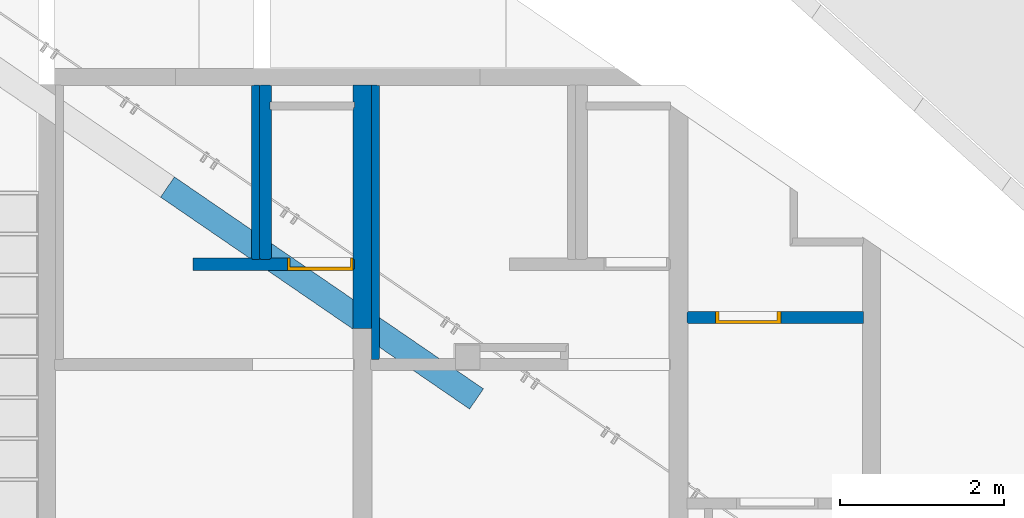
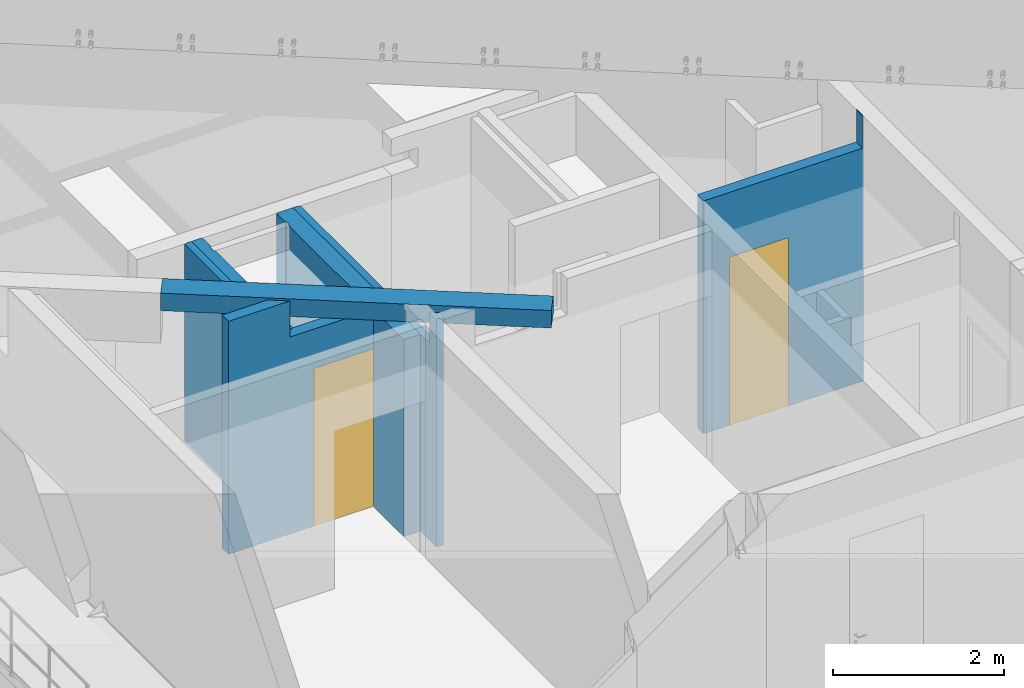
# One storey, part 136 of 246: 7 walls, 2 doors, 2 openings.
"""IFC2X3 building model written with IfcOpenShell, lengths in millimetres."""

from ifc_helpers import new_model, entity, si_unit, converted_unit, derived_unit, money_unit, direction, frame, origin_with_axes, place, context, subcontext, project, spatial, faceted_brep, material, material_list, type_object, element, fill, save


model = new_model("IFC2X3")

# Units and contexts
model_context = context("Model", 3, precision=0.01, world=origin_with_axes(), true_north=direction((0.0, 1.0)))
body_context = subcontext(model_context, "Body", "Model", "MODEL_VIEW")
ifc_project = project(units=[si_unit("LENGTHUNIT", "METRE", prefix="MILLI"), si_unit("AREAUNIT", "SQUARE_METRE"), si_unit("VOLUMEUNIT", "CUBIC_METRE"), converted_unit("PLANEANGLEUNIT", "DEGREE", entity("IfcPlaneAngleMeasure", 0.0174532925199), si_unit("PLANEANGLEUNIT", "RADIAN"), dimensions=[0, 0, 0, 0, 0, 0, 0]), si_unit("SOLIDANGLEUNIT", "STERADIAN"), money_unit("EUR"), converted_unit("TIMEUNIT", "Year", entity("IfcTimeMeasure", 31556926.0), si_unit("TIMEUNIT", "SECOND"), dimensions=[0, 0, 1, 0, 0, 0, 0]), si_unit("MASSUNIT", "GRAM", prefix="KILO"), si_unit("THERMODYNAMICTEMPERATUREUNIT", "DEGREE_CELSIUS"), si_unit("LUMINOUSINTENSITYUNIT", "LUMEN"), si_unit("ENERGYUNIT", "JOULE", prefix="MEGA"), derived_unit("THERMALCONDUCTANCEUNIT", [(si_unit("POWERUNIT", "WATT"), 1), (si_unit("LENGTHUNIT", "METRE"), -1), (si_unit("THERMODYNAMICTEMPERATUREUNIT", "KELVIN"), -1)]), derived_unit("SPECIFICHEATCAPACITYUNIT", [(si_unit("ENERGYUNIT", "JOULE"), 1), (si_unit("MASSUNIT", "GRAM", prefix="KILO"), -1), (si_unit("THERMODYNAMICTEMPERATUREUNIT", "KELVIN"), -1)]), derived_unit("MASSDENSITYUNIT", [(si_unit("MASSUNIT", "GRAM", prefix="KILO"), 1), (si_unit("VOLUMEUNIT", "CUBIC_METRE"), -1)])], contexts=[model_context])

# Site, building, storey
site_placement = place(None, origin_with_axes())
site = spatial("IfcSite", under=ifc_project, at=site_placement, Name="L.Koidula tn 11b", CompositionType="ELEMENT")
building_placement = place(site_placement, origin_with_axes())
building = spatial("IfcBuilding", under=site, at=building_placement, Name="Rakvere Riigigümnaasium", CompositionType="ELEMENT")
storey_placement = place(building_placement, origin_with_axes())
storey = spatial("IfcBuildingStorey", under=building, at=storey_placement, Name="1.korrus 0,00", CompositionType="ELEMENT", Elevation=0.0)

# Walls
ifc_material_1 = material(Name="Polükarbamiid")
ifc_material_2 = material(Name="siseviimistlus-seinad")
ifc_material_3 = material(Name="Betoon element / plaat")
ifc_material_list_1 = material_list([ifc_material_1, ifc_material_2, ifc_material_3, ifc_material_2, ifc_material_1])
wall_type_1 = type_object("IfcWallType", Name="SS-01-4 230", PredefinedType="NOTDEFINED")
wall_1_placement = place(storey_placement, frame((69964.9873298, 25698.9371768, 0.0), z_axis=(0.0, 0.0, 1.0), x_axis=(0.0, -1.0, 0.0)))
element("IfcWall", 1, at=wall_1_placement, inside=storey, type_object=wall_type_1, material=ifc_material_list_1, Name="Sisesein", context=body_context, shape_type="Brep", body=[
    faceted_brep([(0.0, 10.0, 0.0), (0.0, 10.0, 2810.0), (0.0, 15.0, 2810.0), (0.0, 15.0, 0.0), (2980.75642681, 10.0, 0.0), (2980.75642681, 10.0, 2810.0), (2980.75642681, 15.0, 2810.0), (2980.75642681, 15.0, 0.0)], [[[0, 1, 2, 3]], [[4, 5, 1, 0]], [[5, 6, 2, 1]], [[3, 2, 6, 7]], [[0, 3, 7, 4]], [[7, 6, 5, 4]]]),
    faceted_brep([(0.0, 0.0, 0.0), (0.0, 0.0, 2810.0), (0.0, 10.0, 2810.0), (0.0, 10.0, 0.0), (2980.75642681, 0.0, 0.0), (2980.75642681, 0.0, 2810.0), (2980.75642681, 10.0, 2810.0), (2980.75642681, 10.0, 0.0)], [[[0, 1, 2, 3]], [[4, 5, 1, 0]], [[5, 6, 2, 1]], [[3, 2, 6, 7]], [[0, 3, 7, 4]], [[7, 6, 5, 4]]]),
    faceted_brep([(0.0, -200.0, 0.0), (0.0, -200.0, 2810.0), (0.0, 0.0, 2810.0), (0.0, 0.0, 0.0), (2980.75642681, -200.0, 0.0), (2980.75642681, -200.0, 2810.0), (2980.75642681, 0.0, 2810.0), (2980.75642681, 0.0, 0.0)], [[[0, 1, 2, 3]], [[4, 5, 1, 0]], [[5, 6, 2, 1]], [[3, 2, 6, 7]], [[0, 3, 7, 4]], [[7, 6, 5, 4]]]),
    faceted_brep([(2252.49503746, -210.0, 0.0), (2252.49503746, -210.0, 2810.0), (2252.49503746, -200.0, 2810.0), (2252.49503746, -200.0, 0.0), (2980.75642681, -210.0, 0.0), (2980.75642681, -210.0, 2810.0), (2980.75642681, -200.0, 2810.0), (2980.75642681, -200.0, 0.0)], [[[0, 1, 2, 3]], [[4, 5, 1, 0]], [[5, 6, 2, 1]], [[3, 2, 6, 7]], [[0, 3, 7, 4]], [[7, 6, 5, 4]]]),
    faceted_brep([(0.0, -210.0, 0.0), (0.0, -210.0, 2810.0), (0.0, -200.0, 2810.0), (0.0, -200.0, 0.0), (211.021285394, -210.0, 0.0), (211.021285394, -210.0, 2810.0), (211.021285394, -200.0, 2810.0), (211.021285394, -200.0, 0.0)], [[[0, 1, 2, 3]], [[4, 5, 1, 0]], [[5, 6, 2, 1]], [[3, 2, 6, 7]], [[3, 7, 4, 0]], [[7, 6, 5, 4]]]),
    faceted_brep([(277.021285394, -210.0, 0.0), (277.021285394, -210.0, 2810.0), (277.021285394, -200.0, 2810.0), (277.021285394, -200.0, 0.0), (2132.49503746, -210.0, 0.0), (2132.49503746, -210.0, 2810.0), (2132.49503746, -200.0, 2810.0), (2132.49503746, -200.0, 0.0)], [[[0, 1, 2, 3]], [[4, 5, 1, 0]], [[5, 6, 2, 1]], [[3, 2, 6, 7]], [[3, 7, 4, 0]], [[7, 6, 5, 4]]]),
    faceted_brep([(2262.49503746, -215.0, 0.0), (2262.49503746, -215.0, 2810.0), (2262.49503746, -210.0, 2810.0), (2262.49503746, -210.0, 0.0), (2980.75642681, -215.0, 0.0), (2980.75642681, -215.0, 2810.0), (2980.75642681, -210.0, 2810.0), (2980.75642681, -210.0, 0.0)], [[[0, 1, 2, 3]], [[4, 5, 1, 0]], [[5, 6, 2, 1]], [[3, 2, 6, 7]], [[0, 3, 7, 4]], [[7, 6, 5, 4]]]),
    faceted_brep([(0.0, -215.0, 0.0), (0.0, -215.0, 2810.0), (0.0, -210.0, 2810.0), (0.0, -210.0, 0.0), (211.021285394, -215.0, 0.0), (211.021285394, -215.0, 2810.0), (211.021285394, -210.0, 2810.0), (211.021285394, -210.0, 0.0)], [[[0, 1, 2, 3]], [[4, 5, 1, 0]], [[5, 6, 2, 1]], [[3, 2, 6, 7]], [[3, 7, 4, 0]], [[7, 6, 5, 4]]]),
    faceted_brep([(302.521285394, -215.0, 0.0), (302.521285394, -215.0, 2810.0), (302.521285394, -210.0, 2810.0), (302.521285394, -210.0, 0.0), (2122.49503746, -215.0, 0.0), (2122.49503746, -215.0, 2810.0), (2122.49503746, -210.0, 2810.0), (2122.49503746, -210.0, 0.0)], [[[0, 1, 2, 3]], [[4, 5, 1, 0]], [[5, 6, 2, 1]], [[3, 2, 6, 7]], [[3, 7, 4, 0]], [[7, 6, 5, 4]]]),
])
ifc_material_4 = material(Name="Kipsplaat-erikõva")
ifc_material_5 = material(Name="Karkass")
ifc_material_list_2 = material_list([ifc_material_1, ifc_material_4, ifc_material_4, ifc_material_5])
wall_type_2 = type_object("IfcWallType", Name="SS-09-1 97", PredefinedType="NOTDEFINED")
wall_2_placement = place(storey_placement, frame((68508.4873365, 23431.4421393, 0.0), z_axis=(0.0, 0.0, 1.0), x_axis=(0.0, 1.0, 0.0)))
element("IfcWall", 2, at=wall_2_placement, inside=storey, type_object=wall_type_2, material=ifc_material_list_2, Name="Sisesein", context=body_context, shape_type="Brep", body=[
    faceted_brep([(2257.99509264, 0.0, 2810.0), (2257.99509264, -5.0, 2810.0), (2257.99509264, -5.0, 0.0), (2257.99509264, 0.0, 0.0), (150.0, -5.0, 2810.0), (150.0, 0.0, 2810.0), (150.0, -5.0, 0.0), (150.0, 0.0, 0.0)], [[[0, 1, 2, 3]], [[4, 1, 0, 5]], [[1, 4, 6, 2]], [[7, 3, 2, 6]], [[5, 0, 3, 7]], [[4, 5, 7, 6]]]),
    faceted_brep([(2257.99509264, -5.0, 2810.0), (2257.99509264, -18.0, 2810.0), (2257.99509264, -18.0, 0.0), (2257.99509264, -5.0, 0.0), (135.0, -18.0, 2810.0), (135.0, -5.0, 2810.0), (135.0, -18.0, 0.0), (135.0, -5.0, 0.0)], [[[0, 1, 2, 3]], [[4, 1, 0, 5]], [[1, 4, 6, 2]], [[7, 3, 2, 6]], [[5, 0, 3, 7]], [[4, 5, 7, 6]]]),
    faceted_brep([(2257.99509264, -18.0, 2810.0), (2257.99509264, -30.5, 2810.0), (2257.99509264, -30.5, 0.0), (2257.99509264, -18.0, 0.0), (135.0, -30.5, 2810.0), (135.0, -18.0, 2810.0), (135.0, -30.5, 0.0), (135.0, -18.0, 0.0)], [[[0, 1, 2, 3]], [[4, 1, 0, 5]], [[1, 4, 6, 2]], [[7, 3, 2, 6]], [[5, 0, 3, 7]], [[4, 5, 7, 6]]]),
    faceted_brep([(2267.99509264, -30.5, 2810.0), (2267.99509264, -96.5, 2810.0), (2267.99509264, -96.5, 0.0), (2267.99509264, -30.5, 0.0), (135.0, -96.5, 2810.0), (135.0, -30.5, 2810.0), (135.0, -96.5, 0.0), (135.0, -30.5, 0.0)], [[[0, 1, 2, 3]], [[4, 1, 0, 5]], [[1, 4, 6, 2]], [[7, 3, 2, 6]], [[5, 0, 3, 7]], [[4, 5, 7, 6]]]),
])
ifc_material_list_3 = material_list([ifc_material_5, ifc_material_4, ifc_material_4, ifc_material_1])
wall_3_placement = place(storey_placement, frame((70071.4873298, 22220.4533367, 0.0), z_axis=(0.0, 0.0, 1.0), x_axis=(0.0, 1.0, 0.0)))
element("IfcWall", 3, at=wall_3_placement, inside=storey, type_object=wall_type_2, material=ifc_material_list_3, Name="Sisesein", context=body_context, shape_type="Brep", body=[
    faceted_brep([(3478.98389521, 96.5000018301, 2810.0), (3478.98389521, 30.5000013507, 2810.0), (3478.98389521, 30.5, 0.0), (3478.98389521, 96.5, 0.0), (241.711332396, 30.5, 2810.0), (286.976554, 96.5000018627, 2810.0), (241.711332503, 30.5000001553, 3255.0), (120.0, 30.5000001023, 3255.0), (120.0, 30.5, 0.0), (120.0, 96.5, 0.0), (120.0, 96.5000001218, 3255.0), (286.976552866, 96.5000002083, 3255.0)], [[[0, 1, 2, 3]], [[4, 1, 0, 5]], [[4, 6, 7, 8, 2, 1]], [[9, 3, 2, 8]], [[5, 0, 3, 9, 10, 11]], [[4, 5, 11, 6]], [[6, 11, 10, 7]], [[9, 8, 7, 10]]]),
    faceted_brep([(3468.98389521, 30.5000015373, 2810.0), (3468.98389521, 18.0, 2810.0), (3468.98389521, 18.0, 0.0), (3468.98389521, 30.5, 0.0), (233.138374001, 18.0, 2810.0), (241.711333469, 30.5000015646, 2810.0), (233.138374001, 18.0, 3255.0), (120.0, 18.0, 3255.0), (120.0, 18.0, 0.0), (120.0, 30.5, 0.0), (120.0, 30.5000001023, 3255.0), (241.711332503, 30.5000001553, 3255.0)], [[[0, 1, 2, 3]], [[4, 1, 0, 5]], [[4, 6, 7, 8, 2, 1]], [[9, 3, 2, 8]], [[5, 0, 3, 9, 10, 11]], [[4, 5, 11, 6]], [[6, 11, 10, 7]], [[9, 8, 7, 10]]]),
    faceted_brep([(3468.98389521, 18.0, 2810.0), (3468.98389521, 4.99999721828, 2810.0), (3468.98389521, 5.0, 0.0), (3468.98389521, 18.0, 0.0), (224.22249727, 5.0, 2810.0), (233.138374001, 18.0, 2810.0), (224.222497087, 4.99999973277, 3255.0), (120.0, 4.99999981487, 3255.0), (120.0, 5.0, 0.0), (120.0, 18.0, 0.0), (120.0, 18.0, 3255.0), (233.138374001, 18.0, 3255.0)], [[[0, 1, 2, 3]], [[4, 1, 0, 5]], [[4, 6, 7, 8, 2, 1]], [[9, 3, 2, 8]], [[5, 0, 3, 9, 10, 11]], [[4, 5, 11, 6]], [[6, 11, 10, 7]], [[9, 8, 7, 10]]]),
    faceted_brep([(3468.98389521, 4.99999721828, 2810.0), (3468.98389521, 0.0, 2810.0), (3468.98389521, 0.0, 0.0), (3468.98389521, 5.0, 0.0), (220.793313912, 0.0, 2810.0), (224.222495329, 4.99999716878, 2810.0), (220.793313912, 0.0, 3255.0), (135.0, 0.0, 3255.0), (135.0, 0.0, 0.0), (135.0, 5.0, 0.0), (135.0, 4.99999980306, 3255.0), (224.222497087, 4.99999973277, 3255.0)], [[[0, 1, 2, 3]], [[4, 1, 0, 5]], [[4, 6, 7, 8, 2, 1]], [[9, 3, 2, 8]], [[5, 0, 3, 9, 10, 11]], [[4, 5, 11, 6]], [[6, 11, 10, 7]], [[9, 8, 7, 10]]]),
])

# Wall, opening, door
ifc_material_6 = material(Name="Krohv")
ifc_material_7 = material(Name="Silikaat plokk")
ifc_material_list_4 = material_list([ifc_material_1, ifc_material_6, ifc_material_7, ifc_material_6, ifc_material_1])
wall_type_3 = type_object("IfcWallType", Name="SS-05-2 150", PredefinedType="NOTDEFINED")
wall_4_placement = place(storey_placement, frame((69964.9873299, 23431.4421393, 0.0), z_axis=(0.0, 0.0, 1.0), x_axis=(-1.0, 0.0, 0.0)))
wall_4 = element("IfcWall", 4, at=wall_4_placement, inside=storey, type_object=wall_type_3, material=ifc_material_list_4, Name="Sisesein", context=body_context, shape_type="Brep", body=[
    faceted_brep([(1337.27740743, -2.8985205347e-06, 3255.0), (1337.27740482, -1.11228715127e-06, 3325.0), (2170.0, 0.0, 3325.0), (2170.0, 0.0, 0.0), (1015.00000034, 0.0, 0.0), (1015.00000034, -2.8985205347e-06, 2250.0), (215.0, -2.28030572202e-06, 2250.0), (215.000000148, -2.8478481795e-06, 2810.0), (1337.27740743, -2.8985205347e-06, 2810.0), (1344.56776869, -5.0, 3325.0), (1344.56776869, -5.0, 3255.0), (2170.0, -5.0, 3325.0), (2170.0, -5.0, 0.0), (1015.00000034, -5.0, 0.0), (1015.00000034, -5.0, 2250.0), (215.0, -5.0, 2250.0), (215.000000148, -5.0, 2810.0), (1344.56776869, -5.0, 2810.0)], [[[0, 1, 2, 3, 4, 5, 6, 7, 8]], [[9, 1, 0, 10]], [[1, 9, 11, 2]], [[12, 3, 2, 11]], [[12, 13, 4, 3]], [[4, 13, 14, 5]], [[5, 14, 15, 6]], [[7, 6, 15, 16]], [[7, 16, 17, 8]], [[10, 0, 8, 17]], [[9, 10, 17, 16, 15, 14, 13, 12, 11]]]),
    faceted_brep([(1344.56776869, -5.0, 3255.0), (1344.56776869, -5.0, 3325.0), (2170.0, -5.0, 3325.0), (2170.0, -5.0, 0.0), (1015.00000034, -5.0, 0.0), (1015.00000034, -5.0, 2250.0), (215.0, -5.0, 2250.0), (215.0, -5.0, 0.0), (210.000000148, -5.0, 0.0), (210.000000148, -5.0, 2810.0), (1344.56776869, -5.0, 2810.0), (1359.14849806, -14.9999989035, 3325.0), (1359.14849538, -14.9999970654, 3255.0), (2170.0, -15.0, 3325.0), (2170.0, -15.0, 0.0), (1015.00000034, -15.0, 0.0), (1015.00000034, -14.9999970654, 2250.0), (215.0, -14.9999970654, 2250.0), (215.0, -15.0, 0.0), (210.000000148, -15.0, 0.0), (210.000000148, -14.9999971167, 2810.0), (1359.14849538, -14.9999970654, 2810.0)], [[[0, 1, 2, 3, 4, 5, 6, 7, 8, 9, 10]], [[11, 1, 0, 12]], [[1, 11, 13, 2]], [[14, 3, 2, 13]], [[14, 15, 4, 3]], [[4, 15, 16, 5]], [[5, 16, 17, 6]], [[6, 17, 18, 7]], [[8, 7, 18, 19]], [[20, 9, 8, 19]], [[9, 20, 21, 10]], [[12, 0, 10, 21]], [[11, 12, 21, 20, 19, 18, 17, 16, 15, 14, 13]]]),
    faceted_brep([(1359.14849538, -14.9999970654, 3255.0), (1359.14849806, -14.9999989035, 3325.0), (2170.0, -15.0, 3325.0), (2170.0, -15.0, 0.0), (1015.00000034, -15.0, 0.0), (1015.00000034, -14.9999970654, 2250.0), (215.0, -14.9999970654, 2250.0), (215.0, -15.0, 0.0), (200.000000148, -15.0, 0.0), (200.000000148, -14.9999971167, 2810.0), (1359.14849538, -14.9999970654, 2810.0), (1534.11727086, -134.999999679, 3325.0), (1534.11726973, -134.999998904, 3255.0), (2170.0, -135.0, 3325.0), (2170.0, -135.0, 0.0), (1015.00000034, -135.0, 0.0), (1015.00000034, -134.999998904, 2250.0), (215.0, -134.999998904, 2250.0), (215.0, -135.0, 0.0), (200.000000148, -135.0, 0.0), (200.000000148, -134.999998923, 2810.0), (1534.11726973, -134.999998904, 2810.0)], [[[0, 1, 2, 3, 4, 5, 6, 7, 8, 9, 10]], [[11, 1, 0, 12]], [[1, 11, 13, 2]], [[14, 3, 2, 13]], [[14, 15, 4, 3]], [[4, 15, 16, 5]], [[5, 16, 17, 6]], [[6, 17, 18, 7]], [[8, 7, 18, 19]], [[20, 9, 8, 19]], [[9, 20, 21, 10]], [[12, 0, 10, 21]], [[11, 12, 21, 20, 19, 18, 17, 16, 15, 14, 13]]]),
    faceted_brep([(1534.11727133, -135.0, 3255.0), (1534.11727086, -134.999999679, 3325.0), (2170.0, -135.0, 3325.0), (2170.0, -135.0, 0.0), (1451.49999341, -135.0, 0.0), (1451.49999341, -134.999999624, 2810.0), (1534.11727133, -135.0, 2810.0), (1548.69800231, -145.0, 3325.0), (1548.69800231, -145.0, 3255.0), (2170.0, -145.0, 3325.0), (2170.0, -145.0, 0.0), (1451.49999341, -145.0, 0.0), (1451.49999341, -145.0, 2810.0), (1548.69800231, -145.0, 2810.0)], [[[0, 1, 2, 3, 4, 5, 6]], [[7, 1, 0, 8]], [[1, 7, 9, 2]], [[9, 10, 3, 2]], [[3, 10, 11, 4]], [[11, 12, 5, 4]], [[6, 5, 12, 13]], [[8, 0, 6, 13]], [[7, 8, 13, 12, 11, 10, 9]]]),
    faceted_brep([(215.0, -145.0, 2250.0), (1015.00000034, -145.0, 2250.0), (1015.00000034, -145.0, 0.0), (1229.99999341, -145.0, 0.0), (1229.99999341, -145.0, 2810.0), (210.000000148, -145.0, 2810.0), (210.000000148, -145.0, 0.0), (215.0, -145.0, 0.0), (1015.00000034, -134.999998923, 2250.0), (215.0, -134.999998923, 2250.0), (1015.00000034, -135.0, 0.0), (1229.99999341, -135.0, 0.0), (1229.99999341, -134.999999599, 2810.0), (210.000000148, -134.999998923, 2810.0), (210.000000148, -135.0, 0.0), (215.0, -135.0, 0.0)], [[[0, 1, 2, 3, 4, 5, 6, 7]], [[8, 1, 0, 9]], [[10, 2, 1, 8]], [[3, 2, 10, 11]], [[12, 4, 3, 11]], [[13, 5, 4, 12]], [[5, 13, 14, 6]], [[14, 15, 7, 6]], [[9, 0, 7, 15]], [[8, 9, 15, 14, 13, 12, 11, 10]]]),
    faceted_brep([(1359.99999341, -145.0, 0.0), (1359.99999341, -145.0, 2810.0), (1349.99999341, -145.0, 2810.0), (1349.99999341, -145.0, 0.0), (1359.99999341, -135.0, 0.0), (1359.99999341, -134.999999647, 2810.0), (1349.99999341, -134.99999965, 2810.0), (1349.99999341, -135.0, 0.0)], [[[0, 1, 2, 3]], [[4, 5, 1, 0]], [[5, 6, 2, 1]], [[3, 2, 6, 7]], [[3, 7, 4, 0]], [[7, 6, 5, 4]]]),
    faceted_brep([(1548.69800231, -145.0, 3255.0), (1548.69800231, -145.0, 3325.0), (2170.0, -145.0, 3325.0), (2170.0, -145.0, 0.0), (1451.49999341, -145.0, 0.0), (1451.49999341, -145.0, 2810.0), (1548.69800231, -145.0, 2810.0), (1555.98836779, -150.0, 3325.0), (1555.98836779, -150.0, 3255.0), (2170.0, -150.0, 3325.0), (2170.0, -150.0, 0.0), (1451.49999341, -150.0, 0.0), (1451.49999341, -150.0, 2810.0), (1555.98836779, -150.0, 2810.0)], [[[0, 1, 2, 3, 4, 5, 6]], [[7, 1, 0, 8]], [[1, 7, 9, 2]], [[9, 10, 3, 2]], [[3, 10, 11, 4]], [[11, 12, 5, 4]], [[6, 5, 12, 13]], [[8, 0, 6, 13]], [[7, 8, 13, 12, 11, 10, 9]]]),
    faceted_brep([(215.000000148, -145.0, 2810.0), (215.0, -145.0, 2250.0), (215.0, -150.0, 2250.0), (215.000000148, -150.0, 2810.0), (1015.00000034, -145.0, 0.0), (1015.00000034, -145.0, 2250.0), (1219.99999341, -145.0, 2810.0), (1219.99999341, -145.0, 0.0), (1015.00000034, -150.0, 2250.0), (1015.00000034, -150.0, 0.0), (1219.99999341, -150.0, 0.0), (1219.99999341, -150.0, 2810.0)], [[[0, 1, 2, 3]], [[4, 5, 1, 0, 6, 7]], [[5, 8, 2, 1]], [[2, 8, 9, 10, 11, 3]], [[0, 3, 11, 6]], [[4, 9, 8, 5]], [[6, 11, 10, 7]], [[10, 9, 4, 7]]]),
])
opening_1_placement = place(wall_4_placement, frame((615.000000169, 0.0, 0.0), z_axis=(0.0, 0.0, 1.0), x_axis=(1.0, 0.0, 0.0)))
opening_1 = element("IfcOpeningElement", 5, at=opening_1_placement, cuts=wall_4, Name="SU-042", context=body_context, shape_type="Brep", body=[
    faceted_brep([(-400.000000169, -150.0, 0.0), (-400.000000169, -150.0, 2250.0), (-400.000000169, 300.0, 2250.0), (-400.000000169, 300.0, 0.0), (400.000000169, -150.0, 0.0), (400.000000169, -150.0, 2250.0), (400.000000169, 300.0, 2250.0), (400.000000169, 300.0, 0.0)], [[[0, 1, 2, 3]], [[0, 4, 5, 1]], [[1, 5, 6, 2]], [[3, 2, 6, 7]], [[4, 0, 3, 7]], [[5, 4, 7, 6]]]),
])
door_style_1 = type_object("IfcDoorStyle", Name="Door 23", ConstructionType="NOTDEFINED", OperationType="SINGLE_SWING_RIGHT", ParameterTakesPrecedence=False, Sizeable=False)
door_1_placement = place(opening_1_placement, frame((400.000000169, 0.0, 0.0), z_axis=(0.0, 0.0, 1.0), x_axis=(-1.0, 0.0, 0.0)))
door_1 = element("IfcDoor", 6, at=door_1_placement, inside=storey, type_object=door_style_1, Name="SU-042", ObjectType="DOOR", OverallHeight=2250.0, OverallWidth=800.0, context=body_context, shape_type="Brep", body=[
    faceted_brep([(0.0, 40.0, 0.0), (0.0, 150.0, 0.0), (30.0, 150.0, 0.0), (30.0, 40.0, 0.0), (0.0, 40.0, 2250.0), (0.0, 150.0, 2250.0), (30.0, 150.0, 2220.0), (30.0, 40.0, 2220.0)], [[[0, 1, 2, 3]], [[4, 5, 1, 0]], [[1, 5, 6, 2]], [[3, 2, 6, 7]], [[0, 3, 7, 4]], [[7, 6, 5, 4]]]),
    faceted_brep([(800.000000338, 40.0, 2250.0), (800.000000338, 150.0, 2250.0), (770.000000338, 150.0, 2220.0), (770.000000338, 40.0, 2220.0), (800.000000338, 40.0, 0.0), (800.000000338, 150.0, 0.0), (770.000000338, 150.0, 0.0), (770.000000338, 40.0, 0.0)], [[[0, 1, 2, 3]], [[4, 5, 1, 0]], [[1, 5, 6, 2]], [[3, 2, 6, 7]], [[0, 3, 7, 4]], [[7, 6, 5, 4]]]),
    faceted_brep([(30.0, 40.0, 2220.0), (30.0, 150.0, 2220.0), (770.000000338, 150.0, 2220.0), (770.000000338, 40.0, 2220.0), (0.0, 40.0, 2250.0), (0.0, 150.0, 2250.0), (800.000000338, 150.0, 2250.0), (800.000000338, 40.0, 2250.0)], [[[0, 1, 2, 3]], [[4, 5, 1, 0]], [[1, 5, 6, 2]], [[3, 2, 6, 7]], [[0, 3, 7, 4]], [[7, 6, 5, 4]]]),
    faceted_brep([(33.0, 0.0, 0.0), (33.0, 0.0, 2205.0), (0.0, 0.0, 2205.0), (0.0, 0.0, 0.0), (33.0, 40.0, 2205.0), (33.0, 40.0, 0.0), (0.0, 40.0, 2205.0), (0.0, 40.0, 0.0)], [[[0, 1, 2, 3]], [[4, 1, 0, 5]], [[1, 4, 6, 2]], [[7, 3, 2, 6]], [[5, 0, 3, 7]], [[4, 5, 7, 6]]]),
    faceted_brep([(767.000000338, 40.0, 2205.0), (767.000000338, 0.0, 2205.0), (800.000000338, 0.0, 2205.0), (800.000000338, 40.0, 2205.0), (767.000000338, 0.0, 0.0), (767.000000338, 40.0, 0.0), (800.000000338, 0.0, 0.0), (800.000000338, 40.0, 0.0)], [[[0, 1, 2, 3]], [[4, 1, 0, 5]], [[1, 4, 6, 2]], [[3, 2, 6, 7]], [[5, 0, 3, 7]], [[4, 5, 7, 6]]]),
    faceted_brep([(33.0, 0.0, 2205.0), (33.0, 0.0, 2217.0), (767.000000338, 0.0, 2217.0), (767.000000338, 0.0, 2205.0), (800.000000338, 0.0, 2205.0), (800.000000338, 0.0, 2250.0), (0.0, 0.0, 2250.0), (0.0, 0.0, 2205.0), (33.0, 40.0, 2205.0), (33.0, 40.0, 2217.0), (767.000000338, 40.0, 2217.0), (767.000000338, 40.0, 2205.0), (800.000000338, 40.0, 2205.0), (800.000000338, 40.0, 2250.0), (0.0, 40.0, 2250.0), (0.0, 40.0, 2205.0)], [[[0, 1, 2, 3, 4, 5, 6, 7]], [[1, 0, 8, 9]], [[2, 1, 9, 10]], [[3, 2, 10, 11]], [[3, 11, 12, 4]], [[13, 5, 4, 12]], [[14, 6, 5, 13]], [[15, 7, 6, 14]], [[8, 0, 7, 15]], [[9, 8, 15, 14, 13, 12, 11, 10]]]),
    faceted_brep([(767.000000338, 40.0, 0.0), (767.000000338, 0.0, 0.0), (33.0, 0.0, 0.0), (33.0, 40.0, 0.0), (767.000000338, 40.0, 2217.0), (767.000000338, 0.0, 2217.0), (33.0, 0.0, 2217.0), (33.0, 40.0, 2217.0)], [[[0, 1, 2, 3]], [[4, 5, 1, 0]], [[1, 5, 6, 2]], [[3, 2, 6, 7]], [[0, 3, 7, 4]], [[7, 6, 5, 4]]]),
])
fill(opening_1, door_1)

# Wall
wall_5_placement = place(storey_placement, frame((68599.9873365, 23431.4421393, 0.0), z_axis=(0.0, 0.0, 1.0), x_axis=(0.0, 1.0, 0.0)))
element("IfcWall", 7, at=wall_5_placement, inside=storey, type_object=wall_type_3, material=ifc_material_list_4, Name="Sisesein", context=body_context, shape_type="Brep", body=[
    faceted_brep([(2257.99509264, 0.0, 0.0), (2257.99509264, 0.0, 2810.0), (2257.99509264, -5.0, 2810.0), (2257.99509264, -5.0, 0.0), (150.0, 0.0, 0.0), (150.0, 0.0, 2810.0), (150.0, -5.0, 2810.0), (150.0, -5.0, 0.0)], [[[0, 1, 2, 3]], [[4, 5, 1, 0]], [[5, 6, 2, 1]], [[3, 2, 6, 7]], [[7, 4, 0, 3]], [[7, 6, 5, 4]]]),
    faceted_brep([(2257.99509264, -5.0, 0.0), (2257.99509264, -5.0, 2810.0), (2257.99509264, -15.0, 2810.0), (2257.99509264, -15.0, 0.0), (145.0, -5.0, 0.0), (145.0, -5.0, 2810.0), (145.0, -15.0, 2810.0), (145.0, -15.0, 0.0)], [[[0, 1, 2, 3]], [[4, 5, 1, 0]], [[5, 6, 2, 1]], [[3, 2, 6, 7]], [[7, 4, 0, 3]], [[7, 6, 5, 4]]]),
    faceted_brep([(2267.99509264, -15.0, 0.0), (2267.99509264, -15.0, 2810.0), (2267.99509264, -135.0, 2810.0), (2267.99509264, -135.0, 0.0), (135.0, -15.0, 0.0), (135.0, -15.0, 2810.0), (135.0, -135.0, 2810.0), (135.0, -135.0, 0.0)], [[[0, 1, 2, 3]], [[4, 5, 1, 0]], [[5, 6, 2, 1]], [[3, 2, 6, 7]], [[7, 4, 0, 3]], [[7, 6, 5, 4]]]),
    faceted_brep([(1964.97375207, -135.0, 0.0), (1964.97375174, -135.0, 2810.0), (1964.97375172, -145.0, 2810.0), (1964.97375207, -145.0, 0.0), (145.0, -135.0, 0.0), (145.0, -135.0, 2810.0), (145.0, -145.0, 2810.0), (145.0, -145.0, 0.0)], [[[0, 1, 2, 3]], [[4, 5, 1, 0]], [[5, 6, 2, 1]], [[3, 2, 6, 7]], [[7, 4, 0, 3]], [[7, 6, 5, 4]]]),
    faceted_brep([(2257.99509264, -135.0, 0.0), (2257.99509264, -135.0, 2810.0), (2257.99509264, -145.0, 2810.0), (2257.99509264, -145.0, 0.0), (2056.47375207, -135.0, 0.0), (2056.47375185, -135.0, 2810.0), (2056.47375184, -145.0, 2810.0), (2056.47375207, -145.0, 0.0)], [[[0, 1, 2, 3]], [[4, 5, 1, 0]], [[5, 6, 2, 1]], [[3, 2, 6, 7]], [[7, 4, 0, 3]], [[7, 6, 5, 4]]]),
    faceted_brep([(1964.97375207, -145.0, 0.0), (1964.97375172, -145.0, 2810.0), (1964.97375172, -150.0, 2810.0), (1964.97375207, -150.0, 0.0), (150.0, -145.0, 0.0), (150.0, -145.0, 2810.0), (150.0, -150.0, 2810.0), (150.0, -150.0, 0.0)], [[[0, 1, 2, 3]], [[4, 5, 1, 0]], [[5, 6, 2, 1]], [[3, 2, 6, 7]], [[7, 4, 0, 3]], [[7, 6, 5, 4]]]),
    faceted_brep([(2257.99509264, -145.0, 0.0), (2257.99509264, -145.0, 2810.0), (2257.99509264, -150.0, 2810.0), (2257.99509264, -150.0, 0.0), (2056.47375207, -145.0, 0.0), (2056.47375184, -145.0, 2810.0), (2056.47375183, -150.0, 2810.0), (2056.47375207, -150.0, 0.0)], [[[0, 1, 2, 3]], [[4, 5, 1, 0]], [[5, 6, 2, 1]], [[3, 2, 6, 7]], [[7, 4, 0, 3]], [[7, 6, 5, 4]]]),
])

# Wall, opening, door
wall_6_placement = place(storey_placement, frame((73829.9981709, 22929.9371768, 0.0), z_axis=(0.0, 0.0, 1.0), x_axis=(1.0, 0.0, 0.0)))
wall_6 = element("IfcWall", 8, at=wall_6_placement, inside=storey, type_object=wall_type_3, material=ifc_material_list_4, Name="Sisesein", context=body_context, shape_type="Brep", body=[
    faceted_brep([(2149.98171685, 0.0, 3720.0), (2149.98171685, 0.0, 3789.99999702), (2159.95691665, 0.0, 3789.99999702), (2159.95691665, 0.0, 0.0), (1150.03192128, 0.0, 0.0), (1150.03192128, 0.0, 2400.0), (350.031920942, 0.0, 2400.0), (350.031920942, 0.0, 0.0), (15.0, 0.0, 0.0), (15.0, 0.0, 3325.0), (2149.98171685, 0.0, 3325.0), (2149.98171685, -5.0, 3789.99999702), (2149.98171685, -5.0, 3720.0), (2159.95691665, -5.0, 3789.99999702), (2159.95691665, -5.0, 0.0), (1150.03192128, -5.0, 0.0), (1150.03192128, -5.0, 2400.0), (350.031920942, -5.0, 2400.0), (350.031920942, -5.0, 0.0), (15.0, -5.0, 0.0), (15.0, -5.0, 3325.0), (2149.98171685, -5.0, 3325.0)], [[[0, 1, 2, 3, 4, 5, 6, 7, 8, 9, 10]], [[11, 1, 0, 12]], [[1, 11, 13, 2]], [[14, 3, 2, 13]], [[14, 15, 4, 3]], [[16, 5, 4, 15]], [[17, 6, 5, 16]], [[18, 7, 6, 17]], [[8, 7, 18, 19]], [[20, 9, 8, 19]], [[10, 9, 20, 21]], [[12, 0, 10, 21]], [[11, 12, 21, 20, 19, 18, 17, 16, 15, 14, 13]]]),
    faceted_brep([(2149.98171685, -5.0, 3720.0), (2149.98171685, -5.0, 3789.99999702), (2159.95691665, -5.0, 3789.99999702), (2159.95691665, -5.0, 0.0), (1150.03192128, -5.0, 0.0), (1150.03192128, -5.0, 2400.0), (350.031920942, -5.0, 2400.0), (350.031920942, -5.0, 0.0), (10.0, -5.0, 0.0), (10.0, -5.0, 3325.0), (2149.98171685, -5.0, 3325.0), (2149.98171685, -15.0, 3789.99999702), (2149.98171685, -15.0, 3720.0), (2159.95691665, -15.0, 3789.99999702), (2159.95691665, -15.0, 0.0), (1150.03192128, -15.0, 0.0), (1150.03192128, -15.0, 2400.0), (350.031920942, -15.0, 2400.0), (350.031920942, -15.0, 0.0), (10.0, -15.0, 0.0), (10.0, -15.0, 3325.0), (2149.98171685, -15.0, 3325.0)], [[[0, 1, 2, 3, 4, 5, 6, 7, 8, 9, 10]], [[11, 1, 0, 12]], [[1, 11, 13, 2]], [[14, 3, 2, 13]], [[14, 15, 4, 3]], [[16, 5, 4, 15]], [[17, 6, 5, 16]], [[18, 7, 6, 17]], [[8, 7, 18, 19]], [[20, 9, 8, 19]], [[10, 9, 20, 21]], [[12, 0, 10, 21]], [[11, 12, 21, 20, 19, 18, 17, 16, 15, 14, 13]]]),
    faceted_brep([(2149.98171685, -15.0, 3720.0), (2149.98171685, -15.0, 3789.99999702), (2159.95691665, -15.0, 3789.99999702), (2159.95691665, -15.0, 0.0), (1150.03192128, -15.0, 0.0), (1150.03192128, -15.0, 2400.0), (350.031920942, -15.0, 2400.0), (350.031920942, -15.0, 0.0), (0.0, -15.0, 0.0), (0.0, -15.0, 3325.0), (2149.98171685, -15.0, 3325.0), (2149.98171685, -135.0, 3789.99999702), (2149.98171685, -135.0, 3720.0), (2159.95691665, -135.0, 3789.99999702), (2159.95691665, -135.0, 0.0), (1150.03192128, -135.0, 0.0), (1150.03192128, -135.0, 2400.0), (350.031920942, -135.0, 2400.0), (350.031920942, -135.0, 0.0), (0.0, -135.0, 0.0), (0.0, -135.0, 3325.0), (2149.98171685, -135.0, 3325.0)], [[[0, 1, 2, 3, 4, 5, 6, 7, 8, 9, 10]], [[11, 1, 0, 12]], [[1, 11, 13, 2]], [[14, 3, 2, 13]], [[14, 15, 4, 3]], [[16, 5, 4, 15]], [[17, 6, 5, 16]], [[18, 7, 6, 17]], [[8, 7, 18, 19]], [[20, 9, 8, 19]], [[10, 9, 20, 21]], [[12, 0, 10, 21]], [[11, 12, 21, 20, 19, 18, 17, 16, 15, 14, 13]]]),
    faceted_brep([(2149.98171685, -135.0, 3720.0), (2149.98171685, -135.0, 3789.99999702), (2159.95691665, -135.0, 3789.99999702), (2159.95691665, -135.0, 0.0), (1150.03192128, -135.0, 0.0), (1150.03192128, -135.0, 2400.0), (350.031920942, -135.0, 2400.0), (350.031920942, -135.0, 0.0), (10.0, -135.0, 0.0), (10.0, -135.0, 3325.0), (2149.98171685, -135.0, 3325.0), (2149.98171685, -145.0, 3789.99999702), (2149.98171685, -145.0, 3720.0), (2159.95691665, -145.0, 3789.99999702), (2159.95691665, -145.0, 0.0), (1150.03192128, -145.0, 0.0), (1150.03192128, -145.0, 2400.0), (350.031920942, -145.0, 2400.0), (350.031920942, -145.0, 0.0), (10.0, -145.0, 0.0), (10.0, -145.0, 3325.0), (2149.98171685, -145.0, 3325.0)], [[[0, 1, 2, 3, 4, 5, 6, 7, 8, 9, 10]], [[11, 1, 0, 12]], [[1, 11, 13, 2]], [[14, 3, 2, 13]], [[14, 15, 4, 3]], [[16, 5, 4, 15]], [[17, 6, 5, 16]], [[18, 7, 6, 17]], [[8, 7, 18, 19]], [[20, 9, 8, 19]], [[10, 9, 20, 21]], [[12, 0, 10, 21]], [[11, 12, 21, 20, 19, 18, 17, 16, 15, 14, 13]]]),
    faceted_brep([(2149.98171685, -145.0, 3720.0), (2149.98171685, -145.0, 3789.99999702), (2159.95691665, -145.0, 3789.99999702), (2159.95691665, -145.0, 0.0), (1150.03192128, -145.0, 0.0), (1150.03192128, -145.0, 2400.0), (350.031920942, -145.0, 2400.0), (350.031920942, -145.0, 0.0), (15.0, -145.0, 0.0), (15.0, -145.0, 3325.0), (2149.98171685, -145.0, 3325.0), (2149.98171685, -150.0, 3789.99999702), (2149.98171685, -150.0, 3720.0), (2159.95691665, -150.0, 3789.99999702), (2159.95691665, -150.0, 0.0), (1150.03192128, -150.0, 0.0), (1150.03192128, -150.0, 2400.0), (350.031920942, -150.0, 2400.0), (350.031920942, -150.0, 0.0), (15.0, -150.0, 0.0), (15.0, -150.0, 3325.0), (2149.98171685, -150.0, 3325.0)], [[[0, 1, 2, 3, 4, 5, 6, 7, 8, 9, 10]], [[11, 1, 0, 12]], [[1, 11, 13, 2]], [[14, 3, 2, 13]], [[14, 15, 4, 3]], [[16, 5, 4, 15]], [[17, 6, 5, 16]], [[18, 7, 6, 17]], [[8, 7, 18, 19]], [[20, 9, 8, 19]], [[10, 9, 20, 21]], [[12, 0, 10, 21]], [[11, 12, 21, 20, 19, 18, 17, 16, 15, 14, 13]]]),
])
opening_2_placement = place(wall_6_placement, frame((750.03192111, 0.0, 0.0), z_axis=(0.0, 0.0, 1.0), x_axis=(1.0, 0.0, 0.0)))
opening_2 = element("IfcOpeningElement", 9, at=opening_2_placement, cuts=wall_6, Name="SU-038", context=body_context, shape_type="Brep", body=[
    faceted_brep([(-400.000000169, 150.0, 2400.0), (-400.000000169, 150.0, 0.0), (-400.000000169, -300.0, 0.0), (-400.000000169, -300.0, 2400.0), (400.000000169, 150.0, 2400.0), (400.000000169, 150.0, 0.0), (400.000000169, -300.0, 0.0), (400.000000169, -300.0, 2400.0)], [[[0, 1, 2, 3]], [[0, 4, 5, 1]], [[1, 5, 6, 2]], [[3, 2, 6, 7]], [[4, 0, 3, 7]], [[5, 4, 7, 6]]]),
])
door_style_2 = type_object("IfcDoorStyle", Name="Door 23", ConstructionType="NOTDEFINED", OperationType="SINGLE_SWING_RIGHT", ParameterTakesPrecedence=False, Sizeable=False)
door_2_placement = place(opening_2_placement, frame((400.000000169, 0.0, 0.0), z_axis=(0.0, 0.0, 1.0), x_axis=(-1.0, 0.0, 0.0)))
door_2 = element("IfcDoor", 10, at=door_2_placement, inside=storey, type_object=door_style_2, Name="SU-038", ObjectType="DOOR", OverallHeight=2400.0, OverallWidth=800.0, context=body_context, shape_type="Brep", body=[
    faceted_brep([(45.0, 110.0, 0.0), (45.0, 110.0, 2355.0), (45.0, 0.0, 2355.0), (45.0, 0.0, 0.0), (33.0, 110.0, 2355.0), (33.0, 110.0, 0.0), (33.0, 150.0, 2355.0), (0.0, 150.0, 2355.0), (0.0, 0.0, 2355.0), (0.0, 0.0, 0.0), (0.0, 150.0, 0.0), (33.0, 150.0, 0.0)], [[[0, 1, 2, 3]], [[4, 1, 0, 5]], [[4, 6, 7, 8, 2, 1]], [[3, 2, 8, 9]], [[5, 0, 3, 9, 10, 11]], [[6, 4, 5, 11]], [[6, 11, 10, 7]], [[10, 9, 8, 7]]]),
    faceted_brep([(767.000000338, 110.0, 2355.0), (755.000000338, 110.0, 2355.0), (755.000000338, 0.0, 2355.0), (800.000000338, 0.0, 2355.0), (800.000000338, 150.0, 2355.0), (767.000000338, 150.0, 2355.0), (767.000000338, 110.0, 0.0), (755.000000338, 110.0, 0.0), (755.000000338, 0.0, 0.0), (800.000000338, 0.0, 0.0), (800.000000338, 150.0, 0.0), (767.000000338, 150.0, 0.0)], [[[0, 1, 2, 3, 4, 5]], [[1, 0, 6, 7]], [[1, 7, 8, 2]], [[3, 2, 8, 9]], [[4, 3, 9, 10]], [[11, 5, 4, 10]], [[0, 5, 11, 6]], [[6, 11, 10, 9, 8, 7]]]),
    faceted_brep([(33.0, 150.0, 2367.0), (33.0, 150.0, 2355.0), (0.0, 150.0, 2355.0), (0.0, 150.0, 2400.0), (800.000000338, 150.0, 2400.0), (800.000000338, 150.0, 2355.0), (767.000000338, 150.0, 2355.0), (767.000000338, 150.0, 2367.0), (33.0, 110.0, 2367.0), (33.0, 110.0, 2355.0), (45.0, 110.0, 2355.0), (45.0, 0.0, 2355.0), (0.0, 0.0, 2355.0), (0.0, 0.0, 2400.0), (800.000000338, 0.0, 2400.0), (800.000000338, 0.0, 2355.0), (767.000000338, 110.0, 2355.0), (755.000000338, 0.0, 2355.0), (755.000000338, 110.0, 2355.0), (767.000000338, 110.0, 2367.0)], [[[0, 1, 2, 3, 4, 5, 6, 7]], [[1, 0, 8, 9]], [[9, 10, 11, 12, 2, 1]], [[2, 12, 13, 3]], [[3, 13, 14, 4]], [[4, 14, 15, 5]], [[16, 6, 5, 15, 17, 18]], [[7, 6, 16, 19]], [[0, 7, 19, 8]], [[16, 18, 10, 9, 8, 19]], [[10, 18, 17, 11]], [[17, 15, 14, 13, 12, 11]]]),
    faceted_brep([(767.000000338, 150.0, 0.0), (767.000000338, 110.0, 0.0), (33.0, 110.0, 0.0), (33.0, 150.0, 0.0), (767.000000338, 150.0, 2367.0), (767.000000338, 110.0, 2367.0), (33.0, 110.0, 2367.0), (33.0, 150.0, 2367.0)], [[[0, 1, 2, 3]], [[4, 5, 1, 0]], [[1, 5, 6, 2]], [[3, 2, 6, 7]], [[0, 3, 7, 4]], [[7, 6, 5, 4]]]),
])
fill(opening_2, door_2)

# Wall
wall_type_4 = type_object("IfcWallType", Name="SS-01-5 300", PredefinedType="NOTDEFINED")
wall_7_placement = place(storey_placement, frame((71343.7524436, 21982.1707105, 3075.0), z_axis=(0.0, 0.0, 1.0), x_axis=(-0.824681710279, 0.565597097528, 0.0)))
element("IfcWall", 11, at=wall_7_placement, inside=storey, type_object=wall_type_4, material=ifc_material_3, Name="Sisesein", context=body_context, shape_type="Brep", body=[
    faceted_brep([(4581.68980682, 0.0, 0.0), (4581.68980682, 0.0, 250.0), (0.0, 0.0, 250.0), (0.0, 0.0, 0.0), (4581.66535282, 300.0, 0.0), (4581.66535282, 300.0, 250.0), (0.0, 300.0, 250.0), (0.0, 300.0, 0.0)], [[[0, 1, 2, 3]], [[4, 5, 1, 0]], [[5, 6, 2, 1]], [[3, 2, 6, 7]], [[3, 7, 4, 0]], [[7, 6, 5, 4]]]),
])

save(model, "model.ifc")
